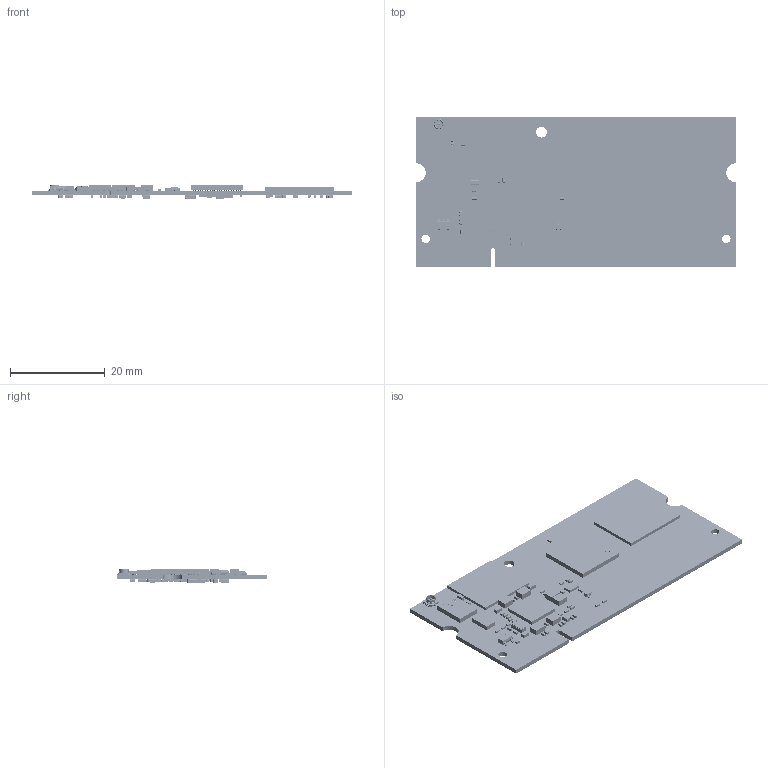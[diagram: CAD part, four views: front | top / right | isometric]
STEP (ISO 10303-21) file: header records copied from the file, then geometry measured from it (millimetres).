
FILE_DESCRIPTION(('Open CASCADE Model'),'2;1');
FILE_NAME('Open CASCADE Shape Model','2025-01-15T22:32:10',('Author'),( 'Open CASCADE'),'Open CASCADE STEP processor 7.5','Open CASCADE 7.5' ,'Unknown');
FILE_SCHEMA(('AUTOMOTIVE_DESIGN { 1 0 10303 214 1 1 1 1 }'));
Length unit declared in the file: millimetre
Products named in the file (284): PCB; Board; Open CASCADE STEP translator 7.5 1.1.1; C601; GRM155R71H223KA12J; Fillet1; Fillet2; body2; R609; RC0402JR-0710KL; term1; term2; body; U600; TMUX1511RSVR; BODY-SON1; FRAME-RSV0016A; Open CASCADE STEP translator 7.5 1.4.1.2.1; Open CASCADE STEP translator 7.5 1.4.1.2.2; Open CASCADE STEP translator 7.5 1.4.1.2.3; Open CASCADE STEP translator 7.5 1.4.1.2.4; Open CASCADE STEP translator 7.5 1.4.1.2.5; Open CASCADE STEP translator 7.5 1.4.1.2.6; Open CASCADE STEP translator 7.5 1.4.1.2.7; Open CASCADE STEP translator 7.5 1.4.1.2.8; Open CASCADE STEP translator 7.5 1.4.1.2.9; Open CASCADE STEP translator 7.5 1.4.1.2.10; Open CASCADE STEP translator 7.5 1.4.1.2.11; Open CASCADE STEP translator 7.5 1.4.1.2.12; Open CASCADE STEP translator 7.5 1.4.1.2.13; Open CASCADE STEP translator 7.5 1.4.1.2.14; Open CASCADE STEP translator 7.5 1.4.1.2.15; Open CASCADE STEP translator 7.5 1.4.1.2.16; C600; U300; 7846462096; Extruded; 7846461856; Cylinder; U100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
Assembly tree (867 placements, depth 5):
  PCB
    Board
      Open CASCADE STEP translator 7.5 1.1.1
    C601
      GRM155R71H223KA12J
        Fillet1
        Fillet2
        body2
    R609
      RC0402JR-0710KL
        term1
        term2
        body
    U600
      TMUX1511RSVR
        BODY-SON1
        FRAME-RSV0016A
          Open CASCADE STEP translator 7.5 1.4.1.2.1
          Open CASCADE STEP translator 7.5 1.4.1.2.2
          Open CASCADE STEP translator 7.5 1.4.1.2.3
          Open CASCADE STEP translator 7.5 1.4.1.2.4
          Open CASCADE STEP translator 7.5 1.4.1.2.5
          Open CASCADE STEP translator 7.5 1.4.1.2.6
          Open CASCADE STEP translator 7.5 1.4.1.2.7
          Open CASCADE STEP translator 7.5 1.4.1.2.8
          Open CASCADE STEP translator 7.5 1.4.1.2.9
          Open CASCADE STEP translator 7.5 1.4.1.2.10
          Open CASCADE STEP translator 7.5 1.4.1.2.11
          Open CASCADE STEP translator 7.5 1.4.1.2.12
          Open CASCADE STEP translator 7.5 1.4.1.2.13
          Open CASCADE STEP translator 7.5 1.4.1.2.14
          Open CASCADE STEP translator 7.5 1.4.1.2.15
          Open CASCADE STEP translator 7.5 1.4.1.2.16
    C600
      GRM155R71H223KA12J
        Fillet1
        Fillet2
        body2
    U300
      7846462096
        Extruded
      7846461856
        Cylinder
    U100
      7846460256
        Extruded
    R163
      RC0402JR-0710KL
        term1
        term2
        body
    R162
      RC0402JR-0710KL
        term1
        term2
        body
    U200
      7035740512
        Open CASCADE STEP translator 7.5 1.1
        Body
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Bounding box: 67.6 x 31.81 x 3.05 mm (x, y, z)
Volume: 2592.9 mm3; surface area: 6729.3 mm2
Topology: 1134 solids, 1135 shells, 8308 faces, 19196 edges, 11277 vertices
Faces by surface type: plane 3871, cylinder 2725, sphere 1647, bspline 47, torus 10, cone 8
Full cylindrical faces by diameter (mm): 0.1 x1, 0.188 x1, 1 x1, 1.375 x1, 1.8 x2, 2.286 x1
Entity records: 90090 total; most frequent: CARTESIAN_POINT 15607, DIRECTION 12737, ORIENTED_EDGE 10659, EDGE_CURVE 5330, AXIS2_PLACEMENT_3D 4758, VERTEX_POINT 3596, LINE 3221, VECTOR 3221
